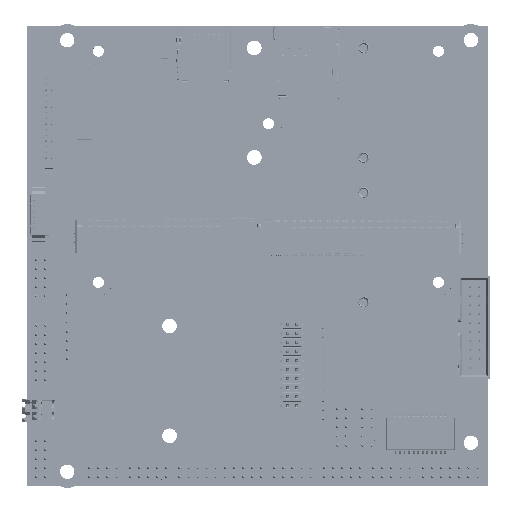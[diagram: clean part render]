
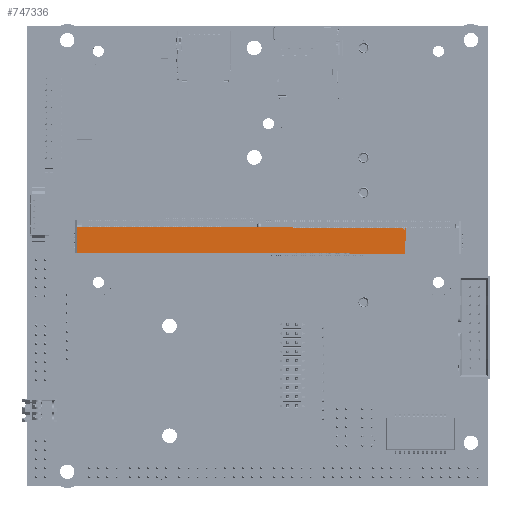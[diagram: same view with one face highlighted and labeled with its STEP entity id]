
A CAD part, top view. The second image highlights one B-rep face of the part: STEP entity #747336.
In plain terms, the highlighted planar face has unit normal (0, 0, 1) as drawn and (0, 1, 0) by its records, which use the part's own axes.
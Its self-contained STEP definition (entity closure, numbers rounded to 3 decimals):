
#289731=DIRECTION('',(0.,0.,-1.));
#289732=VECTOR('',#289731,5.7);
#289733=CARTESIAN_POINT('',(42.17,7.22,2.22));
#289734=LINE('',#289733,#289732);
#446334=DIRECTION('',(-0.446,0.,-0.895));
#446335=VECTOR('',#446334,0.67);
#446336=CARTESIAN_POINT('',(-29.771,7.22,2.22));
#446337=LINE('',#446336,#446335);
#446338=DIRECTION('',(-0.446,0.,0.895));
#446339=VECTOR('',#446338,0.67);
#446340=CARTESIAN_POINT('',(-30.07,7.22,1.62));
#446341=LINE('',#446340,#446339);
#446342=DIRECTION('',(0.,0.,-1.));
#446343=VECTOR('',#446342,2.8);
#446344=CARTESIAN_POINT('',(-30.52,7.22,2.22));
#446345=LINE('',#446344,#446343);
#446346=DIRECTION('',(1.,0.,0.));
#446347=VECTOR('',#446346,0.25);
#446348=CARTESIAN_POINT('',(-30.52,7.22,-0.58));
#446349=LINE('',#446348,#446347);
#446350=DIRECTION('',(1.,0.,0.));
#446351=VECTOR('',#446350,72.44);
#446352=CARTESIAN_POINT('',(-30.27,7.22,-3.48));
#446353=LINE('',#446352,#446351);
#446386=DIRECTION('',(1.,0.,0.));
#446387=VECTOR('',#446386,0.151);
#446388=CARTESIAN_POINT('',(-30.52,7.22,2.22));
#446389=LINE('',#446388,#446387);
#446394=DIRECTION('',(1.,0.,0.));
#446395=VECTOR('',#446394,71.941);
#446396=CARTESIAN_POINT('',(-29.771,7.22,2.22));
#446397=LINE('',#446396,#446395);
#465346=DIRECTION('',(0.,0.,1.));
#465347=VECTOR('',#465346,2.9);
#465348=CARTESIAN_POINT('',(-30.27,7.22,-3.48));
#465349=LINE('',#465348,#465347);
#477275=CARTESIAN_POINT('',(42.17,7.22,2.22));
#477276=VERTEX_POINT('',#477275);
#477277=CARTESIAN_POINT('',(42.17,7.22,-3.48));
#477278=VERTEX_POINT('',#477277);
#484554=CARTESIAN_POINT('',(-30.27,7.22,-3.48));
#484555=VERTEX_POINT('',#484554);
#518439=CARTESIAN_POINT('',(-29.771,7.22,2.22));
#518440=CARTESIAN_POINT('',(-30.07,7.22,1.62));
#518441=VERTEX_POINT('',#518439);
#518442=VERTEX_POINT('',#518440);
#518443=CARTESIAN_POINT('',(-30.369,7.22,2.22));
#518444=VERTEX_POINT('',#518443);
#518445=CARTESIAN_POINT('',(-30.52,7.22,2.22));
#518446=VERTEX_POINT('',#518445);
#518447=CARTESIAN_POINT('',(-30.52,7.22,-0.58));
#518448=VERTEX_POINT('',#518447);
#518449=CARTESIAN_POINT('',(-30.27,7.22,-0.58));
#518450=VERTEX_POINT('',#518449);
#747313=CARTESIAN_POINT('',(-43.34,7.22,-3.48));
#747314=DIRECTION('',(0.,1.,0.));
#747315=DIRECTION('',(0.,0.,1.));
#747316=AXIS2_PLACEMENT_3D('',#747313,#747314,#747315);
#747317=PLANE('',#747316);
#747319=ORIENTED_EDGE('',*,*,#747318,.T.);
#747321=ORIENTED_EDGE('',*,*,#747320,.T.);
#747323=ORIENTED_EDGE('',*,*,#747322,.F.);
#747325=ORIENTED_EDGE('',*,*,#747324,.T.);
#747327=ORIENTED_EDGE('',*,*,#747326,.T.);
#747329=ORIENTED_EDGE('',*,*,#747328,.F.);
#747330=ORIENTED_EDGE('',*,*,#557171,.T.);
#747331=ORIENTED_EDGE('',*,*,#532685,.F.);
#747333=ORIENTED_EDGE('',*,*,#747332,.F.);
#747334=EDGE_LOOP('',(#747319,#747321,#747323,#747325,#747327,#747329,#747330,
#747331,#747333));
#747335=FACE_OUTER_BOUND('',#747334,.F.);
#747336=ADVANCED_FACE('',(#747335),#747317,.T.);
#532685=EDGE_CURVE('',#477276,#477278,#289734,.T.);
#557171=EDGE_CURVE('',#484555,#477278,#446353,.T.);
#747318=EDGE_CURVE('',#518441,#518442,#446337,.T.);
#747320=EDGE_CURVE('',#518442,#518444,#446341,.T.);
#747322=EDGE_CURVE('',#518446,#518444,#446389,.T.);
#747324=EDGE_CURVE('',#518446,#518448,#446345,.T.);
#747326=EDGE_CURVE('',#518448,#518450,#446349,.T.);
#747328=EDGE_CURVE('',#484555,#518450,#465349,.T.);
#747332=EDGE_CURVE('',#518441,#477276,#446397,.T.);
